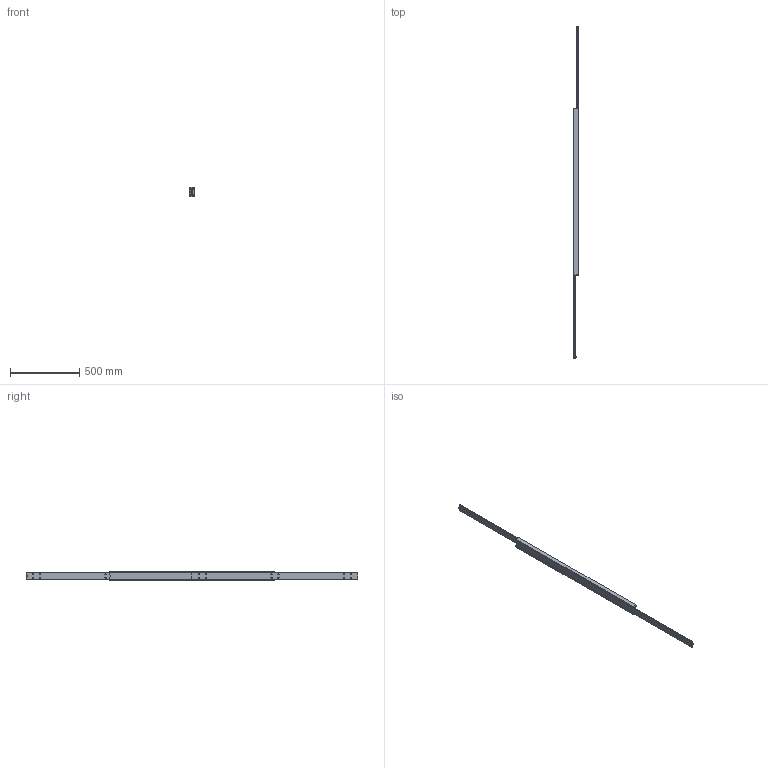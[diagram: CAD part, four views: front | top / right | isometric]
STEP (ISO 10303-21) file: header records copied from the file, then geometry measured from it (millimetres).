
FILE_DESCRIPTION(/* description */ (''),/* implementation_level */ '2;1');
FILE_NAME(/* name */ 'D:\Zeichnungen Schienen Komplett\MX-DTP70\MX-DTP70.120\MX-DTP70.120_ausgefahren.step',/* time_stamp */ '2022-03-03T12:12:43+01:00',/* author */ ('zmile'),/* organization */ (''),/* preprocessor_version */ 'ST-DEVELOPER v16.13',/* originating_system */ 'AutoCAD Mechanical',/* authorisation */ '');
FILE_SCHEMA (('AUTOMOTIVE_DESIGN { 1 0 10303 214 3 1 1 }'));
Length unit declared in the file: millimetre
Products named in the file (1): Product
Bounding box: 32 x 2400 x 70 mm (x, y, z)
Volume: 2050925.6 mm3; surface area: 752779.4 mm2
Topology: 81 solids, 83 shells, 210 faces, 732 edges, 536 vertices
Faces by surface type: plane 82, sphere 76, cylinder 38, bspline 8, torus 6
Full cylindrical faces by diameter (mm): 8 x24, 13 x2
Entity records: 13851 total; most frequent: CARTESIAN_POINT 7747, DIRECTION 1250, ORIENTED_EDGE 908, EDGE_CURVE 546, VERTEX_POINT 534, AXIS2_PLACEMENT_3D 519, EDGE_LOOP 446, CIRCLE 312
